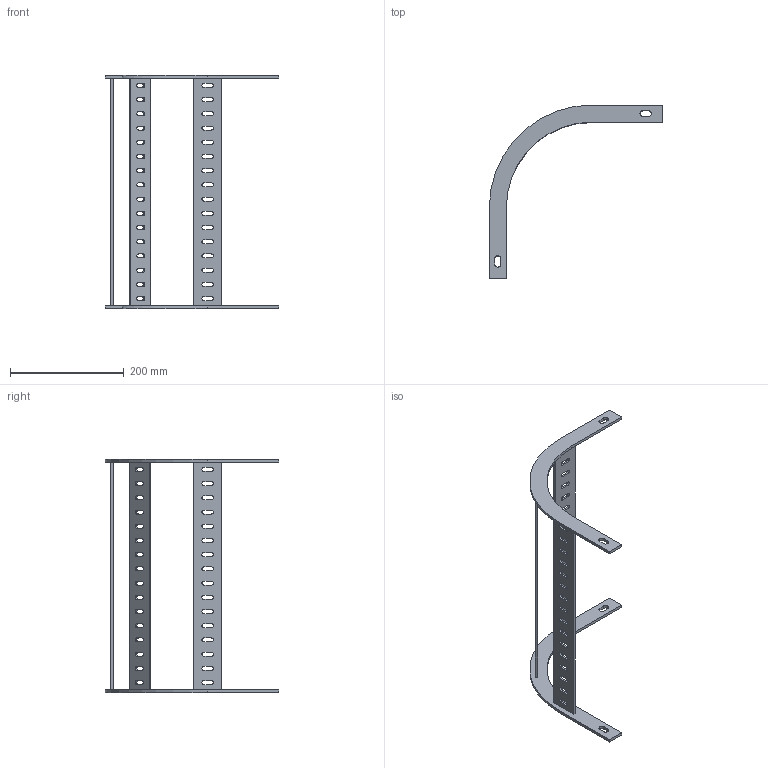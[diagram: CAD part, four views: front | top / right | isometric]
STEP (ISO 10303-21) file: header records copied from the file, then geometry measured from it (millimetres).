
FILE_DESCRIPTION(('Creo Elements/Direct Modeling STEP Export'),'2;1');
FILE_NAME('//pserver/office/EK/ME10-3D/3D-output/SLS 400F.stp','2020-03-10T15:12:01',(''),(''),'PTC Creo Elements/Direct Modeling STEP processor for AP214 (Solid Model)','PTC Creo Elements/Direct Modeling 19.0C 15-Aug-2015 (C) Parametric Technology GmbH','');
FILE_SCHEMA(('AUTOMOTIVE_DESIGN { 1 0 10303 214 1 1 1 1 }'));
Length unit declared in the file: millimetre
Products named in the file (1): SLS_400F
Bounding box: 305 x 305 x 410 mm (x, y, z)
Volume: 364012.7 mm3; surface area: 196568.1 mm2
Topology: 1 solids, 1 shells, 240 faces, 708 edges, 472 vertices
Faces by surface type: plane 132, cylinder 108
Entity records: 8286 total; most frequent: CARTESIAN_POINT 1421, ORIENTED_EDGE 1416, DIRECTION 1406, EDGE_CURVE 708, VECTOR 492, LINE 492, VERTEX_POINT 472, AXIS2_PLACEMENT_3D 457
